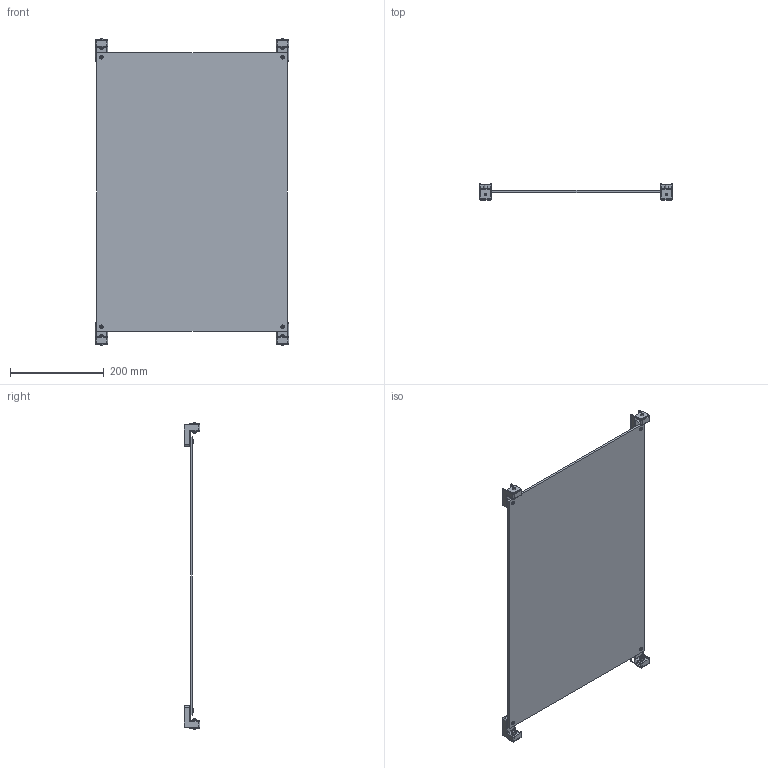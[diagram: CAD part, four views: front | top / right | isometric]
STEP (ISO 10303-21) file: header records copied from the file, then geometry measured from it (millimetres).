
FILE_DESCRIPTION(/* description */ (''),/* implementation_level */ '2;1');
FILE_NAME(/* name */ '4005023.stp',/* time_stamp */ '2016-09-26T10:34:05+02:00',/* author */ (''),/* organization */ (''),/* preprocessor_version */ 'ST-DEVELOPER v16',/* originating_system */ 'SIEMENS PLM Software NX 11.0',/* authorisation */ '');
FILE_SCHEMA (('AUTOMOTIVE_DESIGN { 1 0 10303 214 3 1 1 1 }'));
Length unit declared in the file: millimetre
Products named in the file (1): 4005023_LINKEDEXT_jt
Bounding box: 412 x 33 x 656 mm (x, y, z)
Surface area: 513323.7 mm2 (no closed solid volume)
Topology: 0 solids, 49 shells, 204 faces, 804 edges, 630 vertices
Faces by surface type: plane 90, cylinder 60, cone 16, sphere 16, bspline 12, torus 10
Full cylindrical faces by diameter (mm): 5 x4, 7.2 x4, 8.5 x4, 9.5 x4
Entity records: 10623 total; most frequent: CARTESIAN_POINT 2593, DIRECTION 1386, ORIENTED_EDGE 1014, EDGE_CURVE 764, VERTEX_POINT 620, AXIS2_PLACEMENT_3D 509, LINE 368, VECTOR 368
